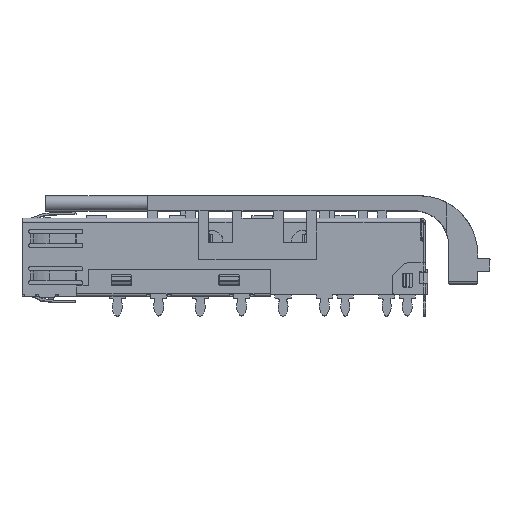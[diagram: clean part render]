
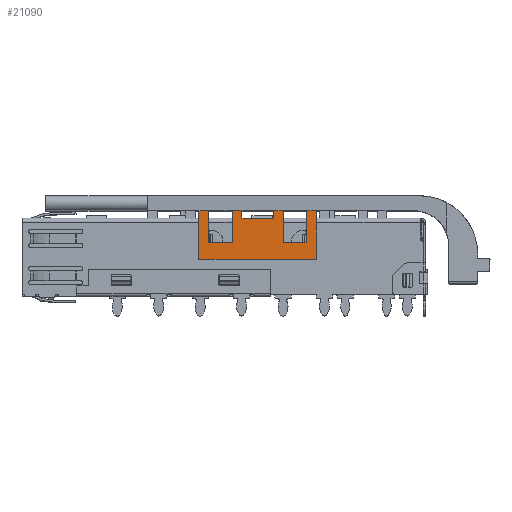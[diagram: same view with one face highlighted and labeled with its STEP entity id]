
A CAD part, top view. The second image highlights one B-rep face of the part: STEP entity #21090.
In plain terms, the highlighted planar face has unit normal (0, 0, 1) as drawn and (1, 0, 0) by its records, which use the part's own axes.
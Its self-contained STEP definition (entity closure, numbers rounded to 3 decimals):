
#1058 = LINE ( 'NONE', #56662, #1300 ) ;
#1300 = VECTOR ( 'NONE', #58229, 1000. ) ;
#2786 = CARTESIAN_POINT ( 'NONE',  ( 1.375, 1466.129, -16.052 ) ) ;
#2843 = ORIENTED_EDGE ( 'NONE', *, *, #27909, .F. ) ;
#2860 = DIRECTION ( 'NONE',  ( 0., 0., 1. ) ) ;
#4959 = CARTESIAN_POINT ( 'NONE',  ( 1.375, 1462.239, -25.052 ) ) ;
#7526 = CARTESIAN_POINT ( 'NONE',  ( 1.375, 1466.129, -23.852 ) ) ;
#7674 = VERTEX_POINT ( 'NONE', #53266 ) ;
#7997 = VERTEX_POINT ( 'NONE', #18004 ) ;
#8654 = CARTESIAN_POINT ( 'NONE',  ( 1.375, 1466.129, -16.052 ) ) ;
#10305 = VERTEX_POINT ( 'NONE', #59370 ) ;
#10375 = CARTESIAN_POINT ( 'NONE',  ( 1.375, 1460.239, -14.852 ) ) ;
#10603 = VERTEX_POINT ( 'NONE', #47099 ) ;
#11007 = CARTESIAN_POINT ( 'NONE',  ( 1.375, 1466.129, -14.852 ) ) ;
#12306 = CARTESIAN_POINT ( 'NONE',  ( 1.375, 1465.239, -20.052 ) ) ;
#12540 = VECTOR ( 'NONE', #46682, 1000. ) ;
#12583 = VECTOR ( 'NONE', #47760, 1000. ) ;
#12994 = LINE ( 'NONE', #46082, #12540 ) ;
#13198 = LINE ( 'NONE', #49670, #12583 ) ;
#13512 = VECTOR ( 'NONE', #59567, 1000. ) ;
#13561 = LINE ( 'NONE', #27095, #13512 ) ;
#14382 = EDGE_CURVE ( 'NONE', #48219, #10305, #31904, .T. ) ;
#15247 = VECTOR ( 'NONE', #51513, 1000. ) ;
#15380 = LINE ( 'NONE', #50910, #15247 ) ;
#15409 = CARTESIAN_POINT ( 'NONE',  ( 1.375, 1466.129, -29.052 ) ) ;
#16073 = EDGE_CURVE ( 'NONE', #38635, #21803, #15380, .T. ) ;
#16932 = VERTEX_POINT ( 'NONE', #8654 ) ;
#17874 = CARTESIAN_POINT ( 'NONE',  ( 1.375, 1466.129, -27.852 ) ) ;
#18004 = CARTESIAN_POINT ( 'NONE',  ( 1.375, 1465.239, -23.852 ) ) ;
#18524 = CARTESIAN_POINT ( 'NONE',  ( 1.375, 1466.129, -20.052 ) ) ;
#18751 = VECTOR ( 'NONE', #39994, 1000. ) ;
#18816 = LINE ( 'NONE', #25274, #18751 ) ;
#19569 = FACE_OUTER_BOUND ( 'NONE', #29122, .T. ) ;
#21090 = ADVANCED_FACE ( 'NONE', ( #19569 ), #36286, .T. ) ;
#21289 = VERTEX_POINT ( 'NONE', #17874 ) ;
#21803 = VERTEX_POINT ( 'NONE', #43115 ) ;
#22772 = EDGE_CURVE ( 'NONE', #7997, #35972, #1058, .T. ) ;
#23096 = VECTOR ( 'NONE', #52613, 1000. ) ;
#23292 = LINE ( 'NONE', #10375, #23096 ) ;
#23420 = EDGE_CURVE ( 'NONE', #7997, #31609, #49290, .T. ) ;
#25206 = EDGE_CURVE ( 'NONE', #48111, #35972, #12994, .T. ) ;
#25274 = CARTESIAN_POINT ( 'NONE',  ( 1.375, 1462.239, -16.052 ) ) ;
#27095 = CARTESIAN_POINT ( 'NONE',  ( 1.375, 1466.129, -27.852 ) ) ;
#27493 = VECTOR ( 'NONE', #47651, 1000. ) ;
#27553 = LINE ( 'NONE', #28745, #27493 ) ;
#27909 = EDGE_CURVE ( 'NONE', #48219, #31609, #13198, .T. ) ;
#28005 = LINE ( 'NONE', #50370, #33910 ) ;
#28333 = CARTESIAN_POINT ( 'NONE',  ( 1.375, 1462.239, -18.852 ) ) ;
#28745 = CARTESIAN_POINT ( 'NONE',  ( 1.375, 1466.129, -16.052 ) ) ;
#28991 = VECTOR ( 'NONE', #37610, 1000. ) ;
#29122 = EDGE_LOOP ( 'NONE', ( #38086, #40337, #44285, #44552, #45814, #46924, #48512, #50236, #51484, #51701, #56115, #56387, #57682, #58914, #60376, #2843 ) ) ;
#29321 = AXIS2_PLACEMENT_3D ( 'NONE', #35711, #35268, #35135 ) ;
#29515 = LINE ( 'NONE', #60333, #28991 ) ;
#29922 = EDGE_CURVE ( 'NONE', #16932, #50161, #44645, .T. ) ;
#31609 = VERTEX_POINT ( 'NONE', #12306 ) ;
#31785 = VECTOR ( 'NONE', #44044, 1000. ) ;
#31904 = LINE ( 'NONE', #44115, #31785 ) ;
#32572 = EDGE_CURVE ( 'NONE', #7674, #21289, #13561, .T. ) ;
#33910 = VECTOR ( 'NONE', #54981, 1000. ) ;
#35135 = DIRECTION ( 'NONE',  ( 0., 0., -1. ) ) ;
#35268 = DIRECTION ( 'NONE',  ( 1., 0., 0. ) ) ;
#35696 = DIRECTION ( 'NONE',  ( 0., 1., 0. ) ) ;
#35711 = CARTESIAN_POINT ( 'NONE',  ( 1.375, 1466.129, -16.052 ) ) ;
#35972 = VERTEX_POINT ( 'NONE', #7526 ) ;
#36286 = PLANE ( 'NONE',  #29321 ) ;
#36338 = EDGE_CURVE ( 'NONE', #16932, #21803, #27553, .T. ) ;
#36532 = CARTESIAN_POINT ( 'NONE',  ( 1.375, 1460.239, -29.052 ) ) ;
#37069 = EDGE_CURVE ( 'NONE', #7674, #38047, #18816, .T. ) ;
#37280 = CARTESIAN_POINT ( 'NONE',  ( 1.375, 1466.129, -25.052 ) ) ;
#37610 = DIRECTION ( 'NONE',  ( 0., -1., 0. ) ) ;
#38047 = VERTEX_POINT ( 'NONE', #4959 ) ;
#38086 = ORIENTED_EDGE ( 'NONE', *, *, #14382, .T. ) ;
#38635 = VERTEX_POINT ( 'NONE', #28333 ) ;
#38901 = EDGE_CURVE ( 'NONE', #10603, #50161, #57362, .T. ) ;
#39594 = EDGE_CURVE ( 'NONE', #38635, #10305, #51445, .T. ) ;
#39994 = DIRECTION ( 'NONE',  ( 0., 0., 1. ) ) ;
#40337 = ORIENTED_EDGE ( 'NONE', *, *, #39594, .F. ) ;
#40490 = EDGE_CURVE ( 'NONE', #57284, #21289, #43697, .T. ) ;
#40532 = CARTESIAN_POINT ( 'NONE',  ( 1.375, 1466.129, -18.852 ) ) ;
#42100 = EDGE_CURVE ( 'NONE', #48111, #38047, #29515, .T. ) ;
#42702 = EDGE_CURVE ( 'NONE', #56947, #10603, #23292, .T. ) ;
#43115 = CARTESIAN_POINT ( 'NONE',  ( 1.375, 1462.239, -16.052 ) ) ;
#43502 = VECTOR ( 'NONE', #57703, 1000. ) ;
#43697 = LINE ( 'NONE', #48577, #43502 ) ;
#44044 = DIRECTION ( 'NONE',  ( 0., 0., 1. ) ) ;
#44115 = CARTESIAN_POINT ( 'NONE',  ( 1.375, 1466.129, -16.052 ) ) ;
#44247 = VECTOR ( 'NONE', #2860, 1000. ) ;
#44285 = ORIENTED_EDGE ( 'NONE', *, *, #16073, .T. ) ;
#44552 = ORIENTED_EDGE ( 'NONE', *, *, #36338, .F. ) ;
#44645 = LINE ( 'NONE', #2786, #44247 ) ;
#44820 = CARTESIAN_POINT ( 'NONE',  ( 1.375, 1466.129, -14.852 ) ) ;
#45180 = DIRECTION ( 'NONE',  ( 0., 1., 0. ) ) ;
#45814 = ORIENTED_EDGE ( 'NONE', *, *, #29922, .T. ) ;
#46082 = CARTESIAN_POINT ( 'NONE',  ( 1.375, 1466.129, -16.052 ) ) ;
#46682 = DIRECTION ( 'NONE',  ( 0., 0., 1. ) ) ;
#46924 = ORIENTED_EDGE ( 'NONE', *, *, #38901, .F. ) ;
#47099 = CARTESIAN_POINT ( 'NONE',  ( 1.375, 1460.239, -14.852 ) ) ;
#47651 = DIRECTION ( 'NONE',  ( 0., -1., 0. ) ) ;
#47760 = DIRECTION ( 'NONE',  ( 0., -1., 0. ) ) ;
#48111 = VERTEX_POINT ( 'NONE', #37280 ) ;
#48219 = VERTEX_POINT ( 'NONE', #18524 ) ;
#48512 = ORIENTED_EDGE ( 'NONE', *, *, #42702, .F. ) ;
#48577 = CARTESIAN_POINT ( 'NONE',  ( 1.375, 1466.129, -16.052 ) ) ;
#49236 = VECTOR ( 'NONE', #59160, 1000. ) ;
#49290 = LINE ( 'NONE', #59086, #49236 ) ;
#49670 = CARTESIAN_POINT ( 'NONE',  ( 1.375, 1466.129, -20.052 ) ) ;
#50161 = VERTEX_POINT ( 'NONE', #11007 ) ;
#50236 = ORIENTED_EDGE ( 'NONE', *, *, #59883, .F. ) ;
#50370 = CARTESIAN_POINT ( 'NONE',  ( 1.375, 1466.129, -29.052 ) ) ;
#50910 = CARTESIAN_POINT ( 'NONE',  ( 1.375, 1462.239, -16.052 ) ) ;
#51445 = LINE ( 'NONE', #40532, #51580 ) ;
#51484 = ORIENTED_EDGE ( 'NONE', *, *, #40490, .T. ) ;
#51513 = DIRECTION ( 'NONE',  ( 0., 0., 1. ) ) ;
#51580 = VECTOR ( 'NONE', #45180, 1000. ) ;
#51701 = ORIENTED_EDGE ( 'NONE', *, *, #32572, .F. ) ;
#52613 = DIRECTION ( 'NONE',  ( 0., 0., 1. ) ) ;
#53266 = CARTESIAN_POINT ( 'NONE',  ( 1.375, 1462.239, -27.852 ) ) ;
#54981 = DIRECTION ( 'NONE',  ( 0., -1., 0. ) ) ;
#56115 = ORIENTED_EDGE ( 'NONE', *, *, #37069, .T. ) ;
#56387 = ORIENTED_EDGE ( 'NONE', *, *, #42100, .F. ) ;
#56662 = CARTESIAN_POINT ( 'NONE',  ( 1.375, 1466.129, -23.852 ) ) ;
#56947 = VERTEX_POINT ( 'NONE', #36532 ) ;
#57083 = VECTOR ( 'NONE', #35696, 1000. ) ;
#57284 = VERTEX_POINT ( 'NONE', #15409 ) ;
#57362 = LINE ( 'NONE', #44820, #57083 ) ;
#57682 = ORIENTED_EDGE ( 'NONE', *, *, #25206, .T. ) ;
#57703 = DIRECTION ( 'NONE',  ( 0., 0., 1. ) ) ;
#58229 = DIRECTION ( 'NONE',  ( 0., 1., 0. ) ) ;
#58914 = ORIENTED_EDGE ( 'NONE', *, *, #22772, .F. ) ;
#59086 = CARTESIAN_POINT ( 'NONE',  ( 1.375, 1465.239, -16.052 ) ) ;
#59160 = DIRECTION ( 'NONE',  ( 0., 0., 1. ) ) ;
#59370 = CARTESIAN_POINT ( 'NONE',  ( 1.375, 1466.129, -18.852 ) ) ;
#59567 = DIRECTION ( 'NONE',  ( 0., 1., 0. ) ) ;
#59883 = EDGE_CURVE ( 'NONE', #57284, #56947, #28005, .T. ) ;
#60333 = CARTESIAN_POINT ( 'NONE',  ( 1.375, 1466.129, -25.052 ) ) ;
#60376 = ORIENTED_EDGE ( 'NONE', *, *, #23420, .T. ) ;
